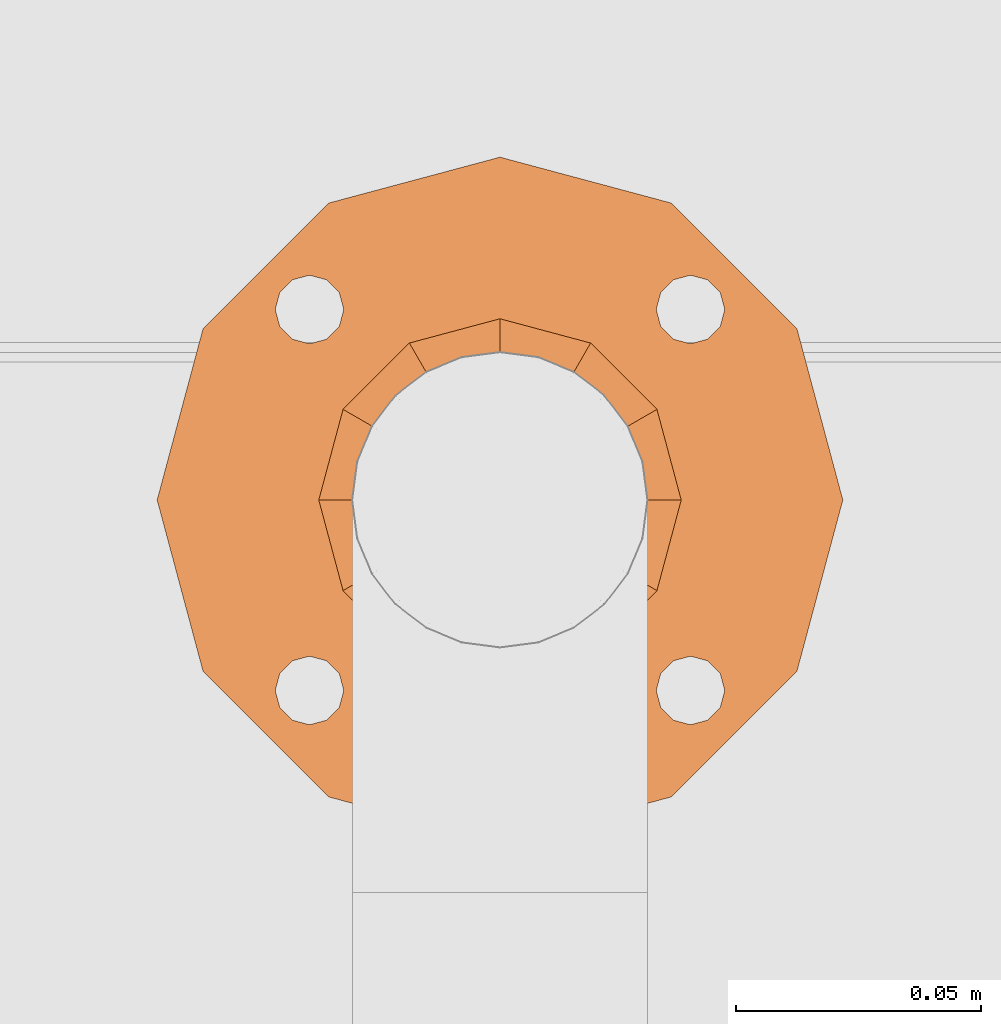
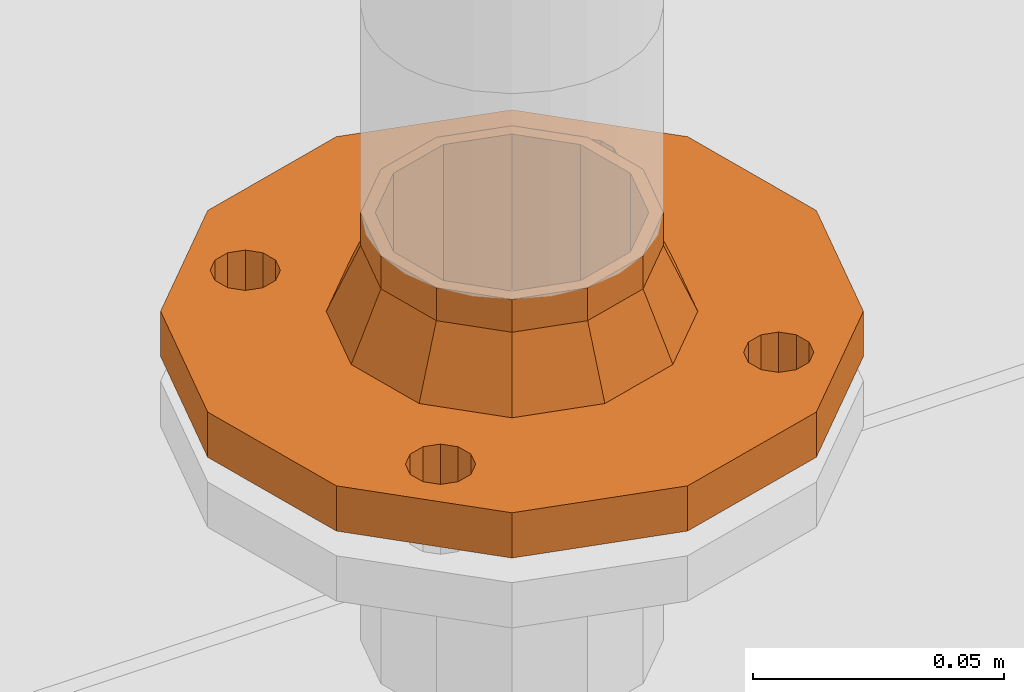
# One storey, part 370 of 374: 1 proxy.
"""IFC2X3 building model written with IfcOpenShell, lengths in metres."""

from ifc_helpers import new_model, si_unit, direction, origin, place, context, subcontext, project, spatial, open_shell, surface_model, source, transform, mapped, element, save


model = new_model("IFC2X3")

# Units and contexts
model_context = context("Model", 3, precision=1e-05, world=origin(), true_north=direction((-0.4480736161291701, 0.8939966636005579)))
body_context = subcontext(model_context, "Body", "Model", "MODEL_VIEW")
ifc_project = project(units=[si_unit("LENGTHUNIT", "METRE"), si_unit("AREAUNIT", "SQUARE_METRE"), si_unit("VOLUMEUNIT", "CUBIC_METRE"), si_unit("PLANEANGLEUNIT", "RADIAN"), si_unit("THERMODYNAMICTEMPERATUREUNIT", "KELVIN"), si_unit("MASSUNIT", "GRAM", prefix="KILO"), si_unit("TIMEUNIT", "SECOND")], contexts=[model_context])

# Site, building, storey
site_placement = place(None, origin())
site = spatial("IfcSite", under=ifc_project, at=site_placement, Name="Site 1", CompositionType="ELEMENT")
building_placement = place(site_placement, origin())
building = spatial("IfcBuilding", under=site, at=building_placement, Name="Undefined", CompositionType="ELEMENT")
storey_placement = place(building_placement, origin())
storey = spatial("IfcBuildingStorey", under=building, at=storey_placement, Name="Rez de chauss\x8ee", CompositionType="ELEMENT", Elevation=0.0)

# Proxy
shared_shape = source(origin(), body_context, "Body", "SurfaceModel", [
    surface_model("IfcFaceBasedSurfaceModel", [(0.011581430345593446, 7.105427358e-15, 7.105427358e-15), (0.010447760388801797, 0.0034415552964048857, 3.552713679e-15), (0.0, 0.0, 0.0), (0.009465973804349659, 0.00642202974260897, -0.001811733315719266), (-0.0009817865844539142, 0.0029804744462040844, -0.001811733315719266), (0.008899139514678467, 0.008142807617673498, -0.00494974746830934), (-0.0015486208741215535, 0.004701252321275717, -0.00494974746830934), (0.008899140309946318, 0.008142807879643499, -0.008573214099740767), (-0.0015486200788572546, 0.004701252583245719, -0.008573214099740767), (0.009465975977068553, 0.006422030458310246, -0.01171122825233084), (-0.0009817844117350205, 0.002980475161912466, -0.01171122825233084), (0.010447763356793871, 0.003441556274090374, -0.013522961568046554), (2.967990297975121e-09, 9.77692593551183e-10, -0.013522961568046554), (0.011581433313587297, 9.77678382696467e-10, -0.013522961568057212), (0.001133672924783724, -0.0034415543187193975, -0.013522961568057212), (0.012563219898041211, -0.0029804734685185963, -0.011711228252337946), (0.002115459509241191, -0.0064220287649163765, -0.011711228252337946), (0.013130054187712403, -0.004701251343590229, -0.008573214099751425), (0.002682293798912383, -0.00814280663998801, -0.008573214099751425), (0.013130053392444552, -0.004701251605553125, -0.0049497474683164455), (0.0026822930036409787, -0.008142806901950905, -0.0049497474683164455), (0.012563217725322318, -0.0029804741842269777, -0.0018117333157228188), (0.0021154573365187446, -0.006422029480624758, -0.0018117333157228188), (0.0011336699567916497, -0.003441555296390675, 7.105427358e-15), (0.010447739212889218, 0.0034415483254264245, 0.0964770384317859), (0.011581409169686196, -6.970971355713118e-09, 0.09647703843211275), (0.0011336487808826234, -0.003441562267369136, 0.09647703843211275), (0.01256319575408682, -0.0029804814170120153, 0.09828877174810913), (0.0021154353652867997, -0.0064220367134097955, 0.09828877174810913), (0.013130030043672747, -0.004701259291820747, 0.10142678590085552), (0.002682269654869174, -0.008142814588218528, 0.10142678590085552), (0.013130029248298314, -0.004701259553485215, 0.10505025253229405), (0.002682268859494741, -0.008142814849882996, 0.10505025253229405), (0.012563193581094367, -0.0029804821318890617, 0.1081882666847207), (0.0021154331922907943, -0.006422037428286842, 0.1081882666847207), (0.011581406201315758, -7.947498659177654e-09, 0.11000000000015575), (0.0011336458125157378, -0.0034415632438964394, 0.11000000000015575), (0.010447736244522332, 0.0034415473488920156, 0.1099999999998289), (-2.414428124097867e-08, -7.947505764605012e-09, 0.1099999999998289), (0.009465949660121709, 0.006422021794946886, 0.10818826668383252), (-0.0009818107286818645, 0.0029804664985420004, 0.10818826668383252), (0.008899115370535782, 0.008142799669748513, 0.10505025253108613), (-0.0015486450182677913, 0.0047012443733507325, 0.10505025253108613), (0.008899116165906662, 0.00814279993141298, 0.1014267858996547), (-0.0015486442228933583, 0.0047012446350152, 0.1014267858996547), (0.009465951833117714, 0.006422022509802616, 0.09828877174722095), (-0.0009818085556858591, 0.002980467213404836, 0.09828877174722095), (-2.1175914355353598e-08, -6.970971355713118e-09, 0.0964770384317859), (-0.004077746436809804, 0.04753754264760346, 0.046426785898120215), (-0.004077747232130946, 0.04753754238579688, 0.05005025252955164), (-0.014525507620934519, 0.0440959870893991, 0.05005025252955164), (-0.004644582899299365, 0.04925831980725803, 0.05318826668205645), (-0.015092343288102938, 0.04581676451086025, 0.05318826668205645), (-0.005626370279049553, 0.052238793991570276, 0.054999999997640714), (-0.016074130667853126, 0.048797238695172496, 0.054999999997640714), (-0.006760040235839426, 0.05568034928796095, 0.054999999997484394), (-0.017207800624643, 0.05223879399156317, 0.054999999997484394), (-0.0077418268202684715, 0.058660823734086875, 0.05318826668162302), (-0.018189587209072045, 0.05521926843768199, 0.05318826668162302), (-0.008308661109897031, 0.060381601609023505, 0.05005025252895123), (-0.018756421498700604, 0.056940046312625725, 0.05005025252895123), (-0.008308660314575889, 0.06038160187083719, 0.046426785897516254), (-0.01875642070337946, 0.05694004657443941, 0.046426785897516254), (-0.007741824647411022, 0.05866082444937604, 0.043288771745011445), (-0.018189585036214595, 0.055219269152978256, 0.043288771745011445), (-0.0067600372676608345, 0.0556803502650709, 0.041477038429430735), (-0.017207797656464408, 0.05223879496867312, 0.041477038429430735), (-0.005626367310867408, 0.05223879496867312, 0.04147703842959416), (-0.01607412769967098, 0.04879723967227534, 0.04147703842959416), (-0.004644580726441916, 0.049258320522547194, 0.043288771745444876), (-0.015092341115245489, 0.045816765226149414, 0.043288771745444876), (-0.014525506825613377, 0.04409598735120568, 0.046426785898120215), (0.026106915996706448, -0.0440959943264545, 0.0500502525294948), (0.026106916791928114, -0.04409599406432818, 0.046426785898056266), (0.01565915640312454, -0.04753754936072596, 0.046426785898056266), (0.026673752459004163, -0.04581677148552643, 0.04328877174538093), (0.016225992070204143, -0.04925832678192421, 0.04328877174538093), (0.027655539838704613, -0.04879724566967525, 0.04147703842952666), (0.01720777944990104, -0.05223880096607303, 0.04147703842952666), (0.028789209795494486, -0.05223880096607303, 0.041477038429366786), (0.018341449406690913, -0.05568035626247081, 0.041477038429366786), (0.029770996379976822, -0.05521927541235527, 0.043288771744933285), (0.01932323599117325, -0.05866083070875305, 0.043288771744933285), (0.0303378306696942, -0.056940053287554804, 0.0464267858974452), (0.019890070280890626, -0.060381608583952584, 0.0464267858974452), (0.030337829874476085, -0.05694005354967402, 0.050050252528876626), (0.019890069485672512, -0.0603816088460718, 0.050050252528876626), (0.029770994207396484, -0.05521927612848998, 0.05318826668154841), (0.01932323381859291, -0.05866083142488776, 0.05318826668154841), (0.028789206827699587, -0.05223880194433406, 0.05499999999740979), (0.018341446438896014, -0.05568035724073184, 0.05499999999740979), (0.02765553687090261, -0.04879724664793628, 0.05499999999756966), (0.017207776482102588, -0.05223880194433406, 0.05499999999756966), (0.026673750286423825, -0.04581677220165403, 0.05318826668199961), (0.016225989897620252, -0.04925832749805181, 0.05318826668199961), (0.015659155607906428, -0.04753754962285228, 0.0500502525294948), (-0.01978685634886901, -0.016641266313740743, 0.0773611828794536), (-0.015558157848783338, -0.02947859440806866, 0.06955778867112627), (-0.01619972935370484, -0.027530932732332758, 0.06750717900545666), (-0.013116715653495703, -0.036890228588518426, 0.05604191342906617), (-0.013993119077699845, -0.034229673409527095, 0.05529133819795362), (-0.013116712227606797, -0.03689022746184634, 0.04043512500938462), (-0.013993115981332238, -0.03422967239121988, 0.04118570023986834), (-0.015558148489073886, -0.029478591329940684, 0.026919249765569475), (-0.016199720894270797, -0.02753092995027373, 0.028969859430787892), (-0.020021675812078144, -0.015928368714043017, 0.021917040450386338), (-0.019786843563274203, -0.01664126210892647, 0.019115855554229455), (-0.024434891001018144, -0.0025308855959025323, 0.02191704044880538), (-0.02466972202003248, -0.0018179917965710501, 0.019115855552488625), (-0.02825684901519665, 0.009071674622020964, 0.02896985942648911), (-0.02889842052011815, 0.011019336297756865, 0.026919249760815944), (-0.031339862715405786, 0.018430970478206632, 0.04043512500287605), (-0.030463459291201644, 0.015770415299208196, 0.0411857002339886), (-0.03133986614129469, 0.018430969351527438, 0.0560419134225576), (-0.03046346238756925, 0.015770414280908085, 0.05529133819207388), (-0.028256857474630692, 0.009071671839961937, 0.06750717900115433), (-0.02889842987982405, 0.01101933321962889, 0.06955778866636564), (-0.024434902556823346, -0.002530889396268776, 0.07455999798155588), (-0.024669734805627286, -0.0018179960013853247, 0.07736118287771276), (-0.020021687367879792, -0.015928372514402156, 0.07455999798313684), (-0.00551834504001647, -0.03438727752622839, 0.05604191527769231), (-0.007959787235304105, -0.02697564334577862, 0.06955779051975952), (-0.012188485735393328, -0.0141383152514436, 0.07736118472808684), (-0.017071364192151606, 0.0006849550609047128, 0.07736118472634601), (-0.021300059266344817, 0.013522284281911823, 0.06955779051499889), (-0.023741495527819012, 0.020933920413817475, 0.056041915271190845), (-0.023741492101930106, 0.020933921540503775, 0.040435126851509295), (-0.02130004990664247, 0.013522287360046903, 0.02691925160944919), (-0.017071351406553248, 0.0006849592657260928, 0.019115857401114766), (-0.012188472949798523, -0.014138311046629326, 0.0191158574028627), (-0.007959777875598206, -0.02697564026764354, 0.026919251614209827), (-0.005518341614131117, -0.034387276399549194, 0.04043512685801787), (0.01174852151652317, -0.035665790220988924, 0.05781482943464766), (0.008752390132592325, -0.026570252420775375, 0.0744014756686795), (0.003562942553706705, -0.01081631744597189, 0.08397778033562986), (-0.0024293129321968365, 0.007374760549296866, 0.08397778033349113), (-0.007618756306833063, 0.02312869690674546, 0.07440147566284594), (-0.010614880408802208, 0.03222423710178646, 0.05781482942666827), (-0.01061487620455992, 0.03222423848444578, 0.038662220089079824), (-0.007618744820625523, 0.023128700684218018, 0.02207557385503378), (-0.0024292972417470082, 0.007374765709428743, 0.012499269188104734), (0.0035629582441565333, -0.010816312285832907, 0.012499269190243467), (0.008752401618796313, -0.026570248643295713, 0.022075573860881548), (0.011748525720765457, -0.03566578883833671, 0.038662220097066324), (-0.014919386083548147, 0.045291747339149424, -0.001258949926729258), (-0.020587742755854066, 0.062499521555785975, 0.03012119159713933), (-0.005101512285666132, 0.015487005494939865, -0.01937628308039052), (0.006235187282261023, -0.018928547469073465, -0.019376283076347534), (0.016053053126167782, -0.048733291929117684, -0.0012589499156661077), (0.02172139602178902, -0.06594107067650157, 0.030121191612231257), (0.016053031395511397, -0.04873329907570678, 0.09773599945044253), (0.021721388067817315, -0.06594107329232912, 0.06635585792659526), (0.006235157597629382, -0.018928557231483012, 0.11585333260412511), (-0.005101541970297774, 0.015486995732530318, 0.11585333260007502), (-0.014919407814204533, 0.04529174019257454, 0.0977359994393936), (-0.020587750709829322, 0.06249951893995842, 0.06635585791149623), (0.032169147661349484, -0.06249951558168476, 0.06635586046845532), (0.026500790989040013, -0.04529174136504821, 0.0977360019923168), (0.01668291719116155, -0.015486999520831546, 0.11585333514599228), (0.005346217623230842, 0.01892855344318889, 0.11585333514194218), (-0.004471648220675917, 0.04873329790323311, 0.09773600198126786), (-0.010139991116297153, 0.06594107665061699, 0.06635586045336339), (-0.01013998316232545, 0.06594107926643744, 0.03012119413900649), (-0.0044716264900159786, 0.048733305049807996, -0.0012589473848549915), (0.005346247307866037, 0.018928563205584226, -0.019376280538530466), (0.01668294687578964, -0.015486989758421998, -0.019376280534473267), (0.026500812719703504, -0.04529173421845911, -0.0012589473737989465), (0.03216915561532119, -0.0624995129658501, 0.030121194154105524), (0.007370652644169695, 0.012782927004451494, 0.004771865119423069), (0.014658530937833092, -0.009341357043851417, 0.004771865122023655), (0.02097001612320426, -0.028501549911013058, 0.01641872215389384), (0.024613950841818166, -0.0395636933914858, 0.03659167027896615), (0.01465851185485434, -0.009341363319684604, 0.09170518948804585), (0.007370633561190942, 0.012782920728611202, 0.09170518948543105), (-0.002584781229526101, 0.04300525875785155, 0.03659167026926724), (-0.002584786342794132, 0.043005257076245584, 0.059885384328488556), (0.001059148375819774, 0.031943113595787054, 0.08005833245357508), (0.024613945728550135, -0.03956369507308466, 0.059885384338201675), (0.02097000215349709, -0.02850155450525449, 0.08005833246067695), (0.0010591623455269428, 0.031943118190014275, 0.01641872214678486), (0.02746333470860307, -0.03862508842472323, 0.05988538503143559), (0.023819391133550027, -0.02756294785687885, 0.08005833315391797), (0.017507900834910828, -0.008402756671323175, 0.09170519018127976), (0.010220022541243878, 0.013721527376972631, 0.09170519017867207), (0.003908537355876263, 0.03288172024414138, 0.08005833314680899), (0.00026460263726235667, 0.04394386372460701, 0.059885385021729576), (0.00026460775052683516, 0.04394386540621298, 0.036591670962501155), (0.0039085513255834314, 0.0328817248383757, 0.01641872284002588), (0.010220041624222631, 0.013721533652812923, 0.0047718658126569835), (0.01750791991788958, -0.008402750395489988, 0.004771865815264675), (0.023819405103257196, -0.027562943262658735, 0.016418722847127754), (0.027463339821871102, -0.03862508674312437, 0.03659167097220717), (0.016070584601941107, -0.004039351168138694, 0.021917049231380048), (0.019892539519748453, -0.015641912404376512, 0.028969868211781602), (0.02209914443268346, -0.022340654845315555, 0.04118570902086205), (0.022099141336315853, -0.02234065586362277, 0.05529134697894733), (0.01989253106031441, -0.015641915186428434, 0.06750718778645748), (0.011657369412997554, 0.00935813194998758, 0.02191704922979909), (0.0078354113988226, 0.020960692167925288, 0.028969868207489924), (0.005628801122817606, 0.02765943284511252, 0.04118570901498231), (0.005628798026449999, 0.027659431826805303, 0.055291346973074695), (0.007835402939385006, 0.020960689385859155, 0.06750718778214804), (0.011657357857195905, 0.009358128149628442, 0.0745600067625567), (0.016070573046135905, -0.004039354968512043, 0.07456000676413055)], [open_shell([[[0, 1, 2]], [[2, 1, 3]], [[2, 3, 4]], [[4, 3, 5]], [[4, 5, 6]], [[6, 5, 7]], [[6, 7, 8]], [[8, 7, 9]], [[8, 9, 10]], [[10, 9, 11]], [[10, 11, 12]], [[12, 11, 13]], [[12, 13, 14]], [[14, 13, 15]], [[14, 15, 16]], [[16, 15, 17]], [[16, 17, 18]], [[18, 17, 19]], [[18, 19, 20]], [[20, 19, 21]], [[20, 21, 22]], [[22, 21, 0]], [[22, 0, 23]], [[23, 0, 2]], [[24, 25, 26]], [[26, 25, 27]], [[26, 27, 28]], [[28, 27, 29]], [[28, 29, 30]], [[30, 29, 31]], [[30, 31, 32]], [[32, 31, 33]], [[32, 33, 34]], [[34, 33, 35]], [[34, 35, 36]], [[36, 35, 37]], [[36, 37, 38]], [[38, 37, 39]], [[38, 39, 40]], [[40, 39, 41]], [[40, 41, 42]], [[42, 41, 43]], [[42, 43, 44]], [[44, 43, 45]], [[44, 45, 46]], [[46, 45, 24]], [[46, 24, 47]], [[47, 24, 26]], [[48, 49, 50]], [[50, 49, 51]], [[50, 51, 52]], [[52, 51, 53]], [[52, 53, 54]], [[54, 53, 55]], [[54, 55, 56]], [[56, 55, 57]], [[56, 57, 58]], [[58, 57, 59]], [[58, 59, 60]], [[60, 59, 61]], [[60, 61, 62]], [[62, 61, 63]], [[62, 63, 64]], [[64, 63, 65]], [[64, 65, 66]], [[66, 65, 67]], [[66, 67, 68]], [[68, 67, 69]], [[68, 69, 70]], [[70, 69, 48]], [[70, 48, 71]], [[71, 48, 50]], [[72, 73, 74]], [[74, 73, 75]], [[74, 75, 76]], [[76, 75, 77]], [[76, 77, 78]], [[78, 77, 79]], [[78, 79, 80]], [[80, 79, 81]], [[80, 81, 82]], [[82, 81, 83]], [[82, 83, 84]], [[84, 83, 85]], [[84, 85, 86]], [[86, 85, 87]], [[86, 87, 88]], [[88, 87, 89]], [[88, 89, 90]], [[90, 89, 91]], [[90, 91, 92]], [[92, 91, 93]], [[92, 93, 94]], [[94, 93, 72]], [[94, 72, 95]], [[95, 72, 74]], [[96, 97, 98]], [[98, 97, 99]], [[98, 99, 100]], [[100, 99, 101]], [[100, 101, 102]], [[102, 101, 103]], [[102, 103, 104]], [[104, 103, 105]], [[103, 106, 105]], [[105, 106, 107]], [[106, 108, 107]], [[107, 108, 109]], [[108, 110, 109]], [[109, 110, 111]], [[109, 111, 112]], [[112, 111, 113]], [[112, 113, 114]], [[114, 113, 115]], [[113, 116, 115]], [[115, 116, 117]], [[116, 118, 117]], [[117, 118, 119]], [[118, 96, 119]], [[119, 96, 98]], [[120, 97, 121]], [[121, 97, 96]], [[121, 96, 122]], [[122, 96, 118]], [[122, 118, 123]], [[123, 118, 116]], [[123, 116, 124]], [[124, 116, 113]], [[124, 113, 125]], [[125, 113, 111]], [[125, 111, 126]], [[126, 111, 110]], [[126, 110, 127]], [[127, 110, 108]], [[127, 108, 128]], [[128, 108, 106]], [[128, 106, 129]], [[129, 106, 103]], [[129, 103, 130]], [[130, 103, 101]], [[130, 101, 131]], [[131, 101, 99]], [[131, 99, 120]], [[120, 99, 97]], [[132, 121, 133]], [[133, 121, 122]], [[133, 122, 134]], [[134, 122, 123]], [[134, 123, 135]], [[135, 123, 124]], [[135, 124, 136]], [[136, 124, 125]], [[136, 125, 137]], [[137, 125, 126]], [[137, 126, 138]], [[138, 126, 127]], [[138, 127, 139]], [[139, 127, 128]], [[139, 128, 140]], [[140, 128, 129]], [[140, 129, 141]], [[141, 129, 130]], [[141, 130, 142]], [[142, 130, 131]], [[142, 131, 143]], [[143, 131, 120]], [[143, 120, 132]], [[132, 120, 121]], [[2, 4, 140]], [[140, 4, 6]], [[140, 6, 139]], [[139, 6, 144]], [[139, 144, 68]], [[68, 144, 145]], [[68, 145, 66]], [[66, 145, 64]], [[144, 6, 146]], [[146, 6, 8]], [[146, 8, 10]], [[10, 12, 146]], [[146, 12, 147]], [[12, 14, 147]], [[147, 14, 16]], [[147, 16, 18]], [[18, 20, 147]], [[147, 20, 148]], [[22, 141, 20]], [[20, 141, 142]], [[20, 142, 148]], [[148, 142, 78]], [[148, 78, 149]], [[149, 78, 80]], [[149, 80, 82]], [[22, 23, 141]], [[141, 23, 2]], [[141, 2, 140]], [[26, 28, 134]], [[134, 28, 30]], [[134, 30, 133]], [[133, 30, 150]], [[133, 150, 92]], [[92, 150, 151]], [[92, 151, 90]], [[90, 151, 88]], [[150, 30, 152]], [[152, 30, 32]], [[152, 32, 34]], [[34, 36, 152]], [[152, 36, 153]], [[36, 38, 153]], [[153, 38, 40]], [[153, 40, 42]], [[42, 44, 153]], [[153, 44, 154]], [[46, 135, 44]], [[44, 135, 136]], [[44, 136, 154]], [[154, 136, 54]], [[154, 54, 155]], [[155, 54, 56]], [[155, 56, 58]], [[46, 47, 135]], [[135, 47, 134]], [[47, 26, 134]], [[68, 70, 138]], [[138, 70, 71]], [[138, 71, 50]], [[138, 50, 137]], [[137, 50, 52]], [[137, 52, 54]], [[58, 60, 155]], [[155, 60, 145]], [[60, 62, 145]], [[145, 62, 64]], [[92, 94, 132]], [[132, 94, 95]], [[132, 95, 74]], [[132, 74, 143]], [[143, 74, 76]], [[143, 76, 78]], [[82, 84, 149]], [[149, 84, 86]], [[149, 86, 151]], [[151, 86, 88]], [[136, 137, 54]], [[138, 139, 68]], [[142, 143, 78]], [[132, 133, 92]], [[156, 150, 157]], [[157, 150, 152]], [[157, 152, 158]], [[158, 152, 153]], [[158, 153, 159]], [[159, 153, 154]], [[159, 154, 160]], [[160, 154, 155]], [[160, 155, 161]], [[161, 155, 145]], [[161, 145, 162]], [[162, 145, 144]], [[162, 144, 163]], [[163, 144, 146]], [[163, 146, 164]], [[164, 146, 147]], [[164, 147, 165]], [[165, 147, 148]], [[165, 148, 166]], [[166, 148, 149]], [[166, 149, 167]], [[167, 149, 151]], [[167, 151, 156]], [[156, 151, 150]], [[5, 3, 168]], [[168, 3, 1]], [[168, 1, 169]], [[169, 1, 0]], [[169, 0, 21]], [[21, 19, 169]], [[169, 19, 165]], [[169, 165, 170]], [[170, 165, 166]], [[170, 166, 171]], [[171, 166, 167]], [[171, 167, 77]], [[77, 167, 79]], [[19, 17, 165]], [[165, 17, 15]], [[165, 15, 13]], [[165, 13, 164]], [[164, 13, 11]], [[164, 11, 9]], [[9, 7, 164]], [[164, 7, 5]], [[164, 5, 168]], [[29, 27, 172]], [[172, 27, 25]], [[172, 25, 173]], [[173, 25, 24]], [[173, 24, 45]], [[45, 43, 173]], [[173, 43, 159]], [[173, 159, 160]], [[43, 41, 159]], [[159, 41, 39]], [[159, 39, 37]], [[159, 37, 158]], [[158, 37, 35]], [[158, 35, 33]], [[33, 31, 158]], [[158, 31, 29]], [[158, 29, 172]], [[48, 69, 174]], [[174, 69, 67]], [[174, 67, 162]], [[162, 67, 65]], [[162, 65, 63]], [[63, 61, 162]], [[162, 61, 59]], [[162, 59, 161]], [[161, 59, 57]], [[161, 57, 55]], [[55, 53, 161]], [[161, 53, 175]], [[161, 175, 160]], [[160, 175, 176]], [[160, 176, 173]], [[53, 51, 175]], [[175, 51, 49]], [[175, 49, 174]], [[174, 49, 48]], [[72, 93, 177]], [[177, 93, 91]], [[177, 91, 156]], [[156, 91, 89]], [[156, 89, 87]], [[87, 85, 156]], [[156, 85, 167]], [[85, 83, 167]], [[167, 83, 81]], [[167, 81, 79]], [[77, 75, 171]], [[171, 75, 73]], [[171, 73, 72]], [[177, 156, 178]], [[178, 156, 157]], [[178, 157, 158]], [[177, 171, 72]], [[164, 168, 163]], [[163, 168, 179]], [[163, 179, 162]], [[162, 179, 174]], [[172, 178, 158]], [[180, 178, 181]], [[181, 178, 172]], [[181, 172, 182]], [[182, 172, 173]], [[182, 173, 183]], [[183, 173, 176]], [[183, 176, 184]], [[184, 176, 175]], [[184, 175, 185]], [[185, 175, 174]], [[185, 174, 186]], [[186, 174, 179]], [[186, 179, 187]], [[187, 179, 168]], [[187, 168, 188]], [[188, 168, 169]], [[188, 169, 189]], [[189, 169, 170]], [[189, 170, 190]], [[190, 170, 171]], [[190, 171, 191]], [[191, 171, 177]], [[191, 177, 180]], [[180, 177, 178]], [[192, 189, 193]], [[193, 189, 190]], [[193, 190, 194]], [[194, 190, 191]], [[194, 191, 195]], [[195, 191, 180]], [[195, 180, 196]], [[196, 180, 181]], [[196, 181, 182]], [[192, 197, 189]], [[189, 197, 188]], [[197, 198, 188]], [[188, 198, 187]], [[187, 198, 186]], [[186, 198, 199]], [[186, 199, 185]], [[185, 199, 200]], [[185, 200, 184]], [[184, 200, 201]], [[184, 201, 202]], [[184, 202, 183]], [[183, 202, 203]], [[183, 203, 182]], [[182, 203, 196]], [[100, 196, 98]], [[98, 196, 203]], [[98, 203, 119]], [[119, 203, 202]], [[119, 202, 117]], [[117, 202, 201]], [[117, 201, 115]], [[115, 201, 200]], [[115, 200, 114]], [[114, 200, 199]], [[114, 199, 112]], [[112, 199, 198]], [[112, 198, 109]], [[109, 198, 197]], [[109, 197, 107]], [[107, 197, 192]], [[107, 192, 105]], [[105, 192, 193]], [[105, 193, 104]], [[104, 193, 194]], [[104, 194, 102]], [[102, 194, 195]], [[102, 195, 100]], [[100, 195, 196]]])]),
])
proxy_placement = place(storey_placement, origin())
element("IfcBuildingElementProxy", 1, at=proxy_placement, inside=storey, Name="BuildingElementProxy 47", context=body_context, shape_type="MappedRepresentation", body=[
    mapped(shared_shape, transform((53.88427080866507, 13.091603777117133, 1.313999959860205), x_axis=(-0.22123155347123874, -0.22123155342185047, -0.9497963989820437), y_axis=(0.6716074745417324, 0.6716074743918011, -0.3128686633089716), z_axis=(0.7071067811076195, -0.7071067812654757, 0.0))),
])

save(model, "model.ifc")
